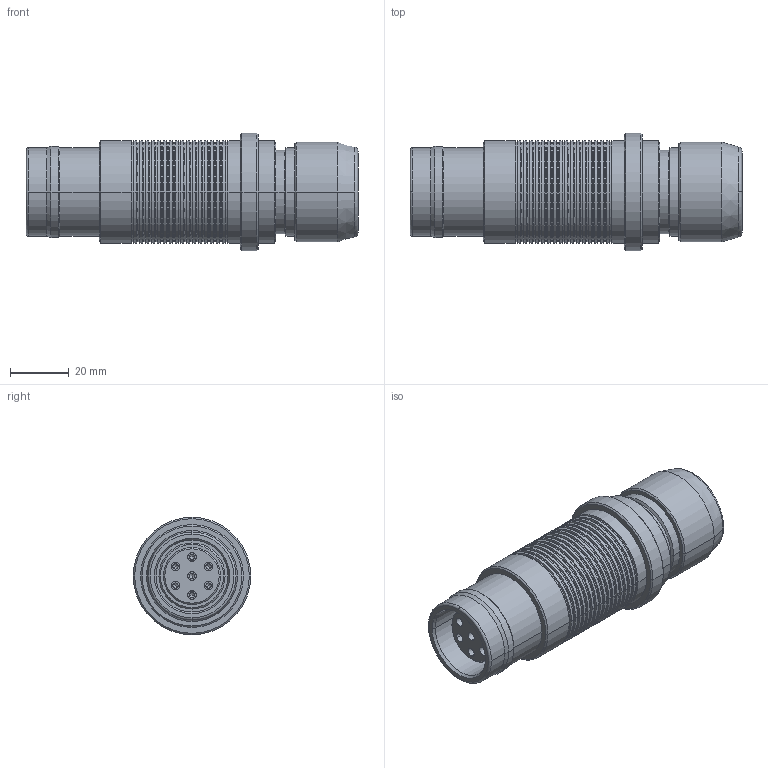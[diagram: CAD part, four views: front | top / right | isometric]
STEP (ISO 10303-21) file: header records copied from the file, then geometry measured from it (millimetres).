
FILE_DESCRIPTION((''),'2;1');
FILE_NAME('W:\214-174.stp','2004-01-23T14:45:58',('KAA'),(''),'Autodesk Inventor (R) 6.0','Autodesk Inventor (R) 6.0','');
FILE_SCHEMA(('CONFIG_CONTROL_DESIGN'));
Length unit declared in the file: millimetre
Products named in the file (1): 214-174
Bounding box: 113 x 40 x 40 mm (x, y, z)
Volume: 74995.8 mm3; surface area: 29198.8 mm2
Topology: 1 solids, 1 shells, 457 faces, 976 edges, 538 vertices
Faces by surface type: cylinder 200, cone 144, bspline 56, plane 47, torus 10
Entity records: 12823 total; most frequent: CARTESIAN_POINT 2896, DIRECTION 2286, ORIENTED_EDGE 1896, EDGE_CURVE 948, AXIS2_PLACEMENT_3D 936, VERTEX_POINT 538, CIRCLE 513, EDGE_LOOP 502
